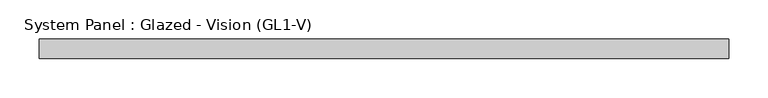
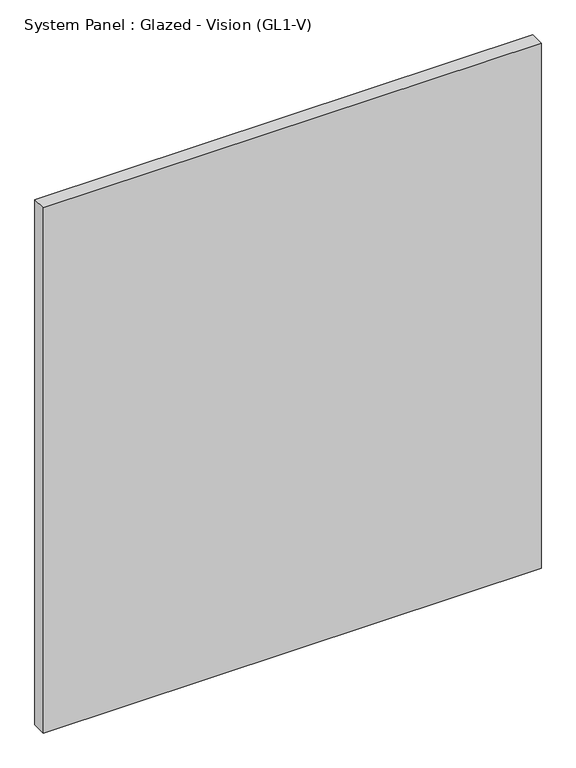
"""IFC4 building model written with IfcOpenShell, lengths in millimetres: plate geometry, System Panel : Glazed - Vision (GL1-V)."""

from ifc_helpers import new_model, si_unit, origin, origin_with_axes, place, context, project, spatial, polyline, outline, extrude, source, transform, mapped, element, save


def system_panel_glazed_vision_gl1_v_0c39035e(model_context):
    return source(origin(), model_context, "Body", "SweptSolid", [
        extrude(outline(polyline([(441.325, -25.4), (-441.325, -25.4), (-441.325, 0.0), (441.325, 0.0), (441.325, -25.4)])), origin_with_axes(), (0.0, 0.0, 1.0), 984.25),
    ])


if __name__ == "__main__":
    model = new_model("IFC4")
    model_context = context("Model", 3, world=origin())
    ifc_project = project(units=[si_unit("LENGTHUNIT", "METRE", prefix="MILLI")], contexts=[model_context])
    site = spatial("IfcSite", under=ifc_project)
    building = spatial("IfcBuilding", under=site)
    placement = place(None, origin())
    system_panel_glazed_vision_gl1_v_shape = system_panel_glazed_vision_gl1_v_0c39035e(model_context)
    element("IfcPlate", 1, ObjectType="System Panel : Glazed - Vision (GL1-V)", at=placement, inside=building, context=model_context, shape_type="MappedRepresentation", body=[
        mapped(system_panel_glazed_vision_gl1_v_shape, transform((0.0, 0.0, 0.0), x_axis=(1.0, 0.0, 0.0), y_axis=(0.0, 1.0, 0.0), z_axis=(0.0, 0.0, 1.0))),
    ])
    save(model, "model.ifc")
